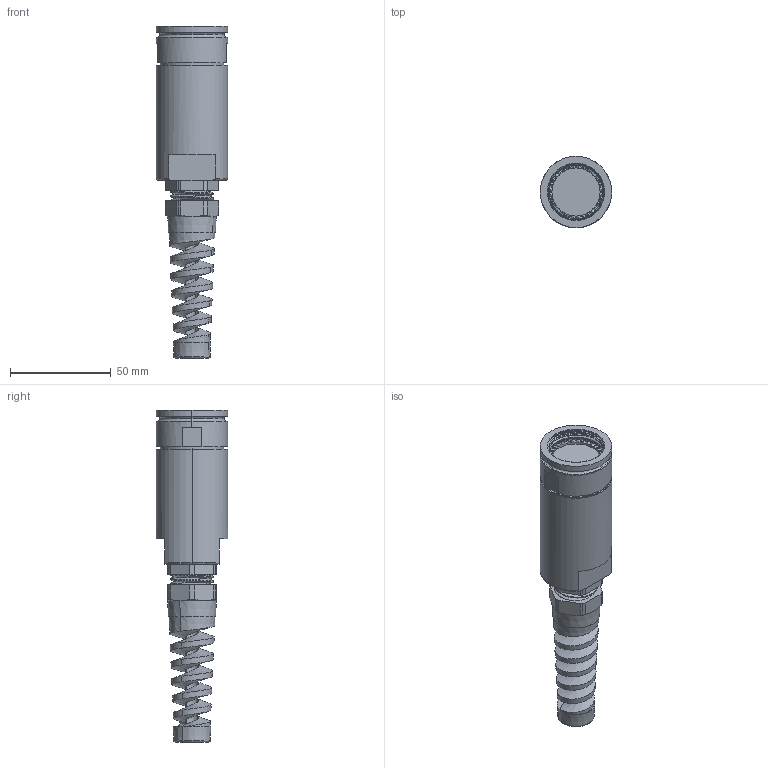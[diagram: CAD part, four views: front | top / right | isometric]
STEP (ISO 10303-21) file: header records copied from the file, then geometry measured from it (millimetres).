
FILE_DESCRIPTION (( 'STEP AP214' ), '1' );
FILE_NAME ('Q38SHELL-STX-19-XXXX-GB.STEP', '2025-09-09T22:18:19', ( '' ), ( '' ), 'SwSTEP 2.0', 'SolidWorks 2024', '' );
FILE_SCHEMA (( 'AUTOMOTIVE_DESIGN' ));
Length unit declared in the file: millimetre
Products named in the file (1): Q38SHELL-STX-19-XXXX-GB
Bounding box: 35.38 x 35.38 x 164.72 mm (x, y, z)
Volume: 89656.2 mm3; surface area: 23394.1 mm2
Topology: 2 solids, 3 shells, 301 faces, 942 edges, 661 vertices
Faces by surface type: plane 170, cylinder 73, cone 38, torus 13, bspline 7
Entity records: 15635 total; most frequent: CARTESIAN_POINT 7792, ORIENTED_EDGE 1884, DIRECTION 1427, EDGE_CURVE 942, VERTEX_POINT 661, AXIS2_PLACEMENT_3D 582, EDGE_LOOP 321, FACE_OUTER_BOUND 301
